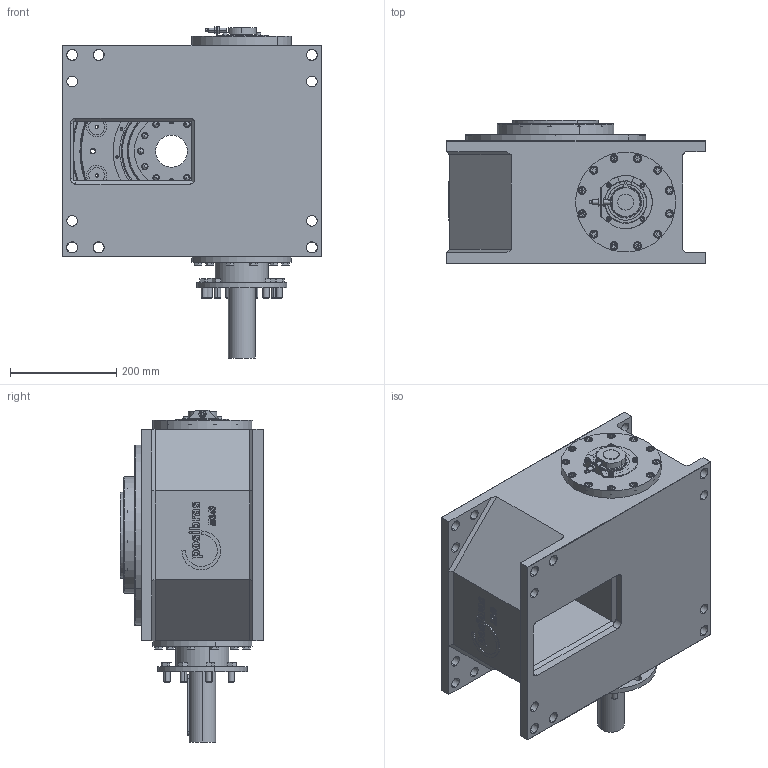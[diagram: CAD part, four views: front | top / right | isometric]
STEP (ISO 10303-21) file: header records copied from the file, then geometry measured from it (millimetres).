
FILE_DESCRIPTION (( 'STEP AP214' ), '1' );
FILE_NAME ('M340_SEW_KA77_D_10.STEP', '2020-06-17T12:37:48', ( '' ), ( '' ), 'SwSTEP 2.0', 'SolidWorks 2020', '' );
FILE_SCHEMA (( 'AUTOMOTIVE_DESIGN' ));
Length unit declared in the file: millimetre
Products named in the file (1): M340_SEW_KA77_D_10
Bounding box: 487 x 269 x 624.47 mm (x, y, z)
Surface area: 1263940.3 mm2 (no closed solid volume)
Topology: 0 solids, 123 shells, 1302 faces, 3804 edges, 2480 vertices
Faces by surface type: plane 586, cylinder 328, cone 237, torus 92, bspline 59
Entity records: 59667 total; most frequent: CARTESIAN_POINT 11332, DIRECTION 7302, ORIENTED_EDGE 6154, EDGE_CURVE 3752, AXIS2_PLACEMENT_3D 2656, VERTEX_POINT 2480, LINE 1990, VECTOR 1990
